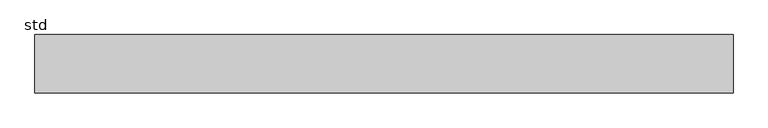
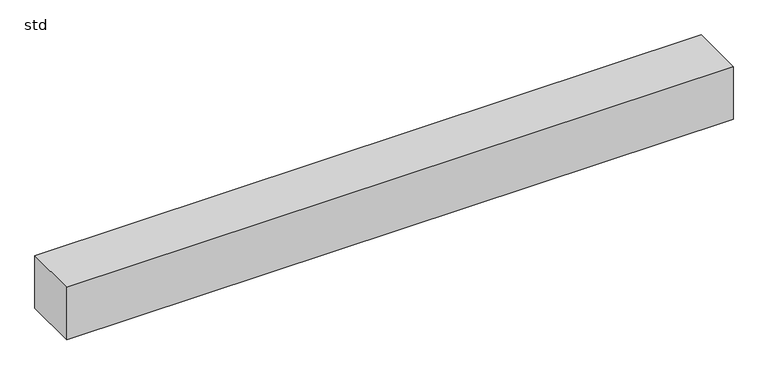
"""IFC4 building model written with IfcOpenShell, lengths in millimetres: proxy geometry, 300_41_ISR_lb_latei : std."""

from ifc_helpers import new_model, si_unit, origin, origin_with_axes, place, context, project, spatial, polyline, outline, extrude, source, transform, mapped, element, save


def std_7226f1d9(model_context):
    return source(origin(), model_context, "Body", "SweptSolid", [
        extrude(outline(polyline([(-600.0, 0.0), (-600.0, 100.0), (600.0, 100.0), (600.0, 0.0), (-600.0, 0.0)])), origin_with_axes(), (0.0, 0.0, 1.0), 100.0),
    ])


if __name__ == "__main__":
    model = new_model("IFC4")
    model_context = context("Model", 3, world=origin())
    ifc_project = project(units=[si_unit("LENGTHUNIT", "METRE", prefix="MILLI")], contexts=[model_context])
    site = spatial("IfcSite", under=ifc_project)
    building = spatial("IfcBuilding", under=site)
    placement = place(None, origin())
    std_shape = std_7226f1d9(model_context)
    element("IfcBuildingElementProxy", 1, Name="300_41_ISR_lb_latei : std", ObjectType="300_41_ISR_lb_latei : std", at=placement, inside=building, context=model_context, shape_type="MappedRepresentation", body=[
        mapped(std_shape, transform((0.0, 0.0, 0.0), x_axis=(1.0, 0.0, 0.0), y_axis=(0.0, 1.0, 0.0), z_axis=(0.0, 0.0, 1.0))),
    ])
    save(model, "model.ifc")
